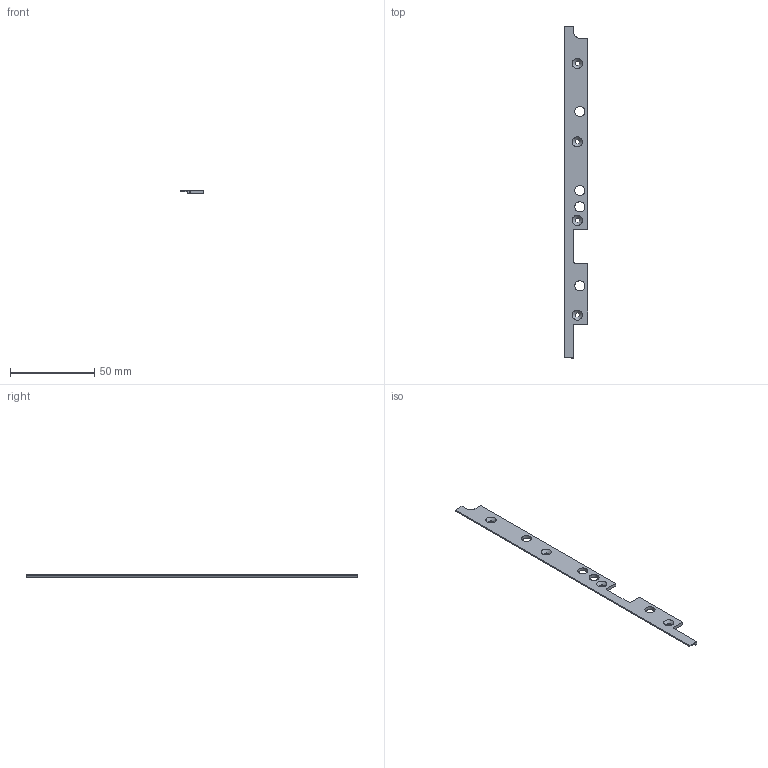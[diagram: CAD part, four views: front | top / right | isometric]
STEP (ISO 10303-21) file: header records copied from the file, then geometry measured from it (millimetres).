
FILE_DESCRIPTION(/* description */ (''),/* implementation_level */ '2;1');
FILE_NAME(/* name */ 'LAMINA#2.stp',/* time_stamp */ '2023-05-18T12:47:44+02:00',/* author */ (''),/* organization */ (''),/* preprocessor_version */ 'ST-DEVELOPER v18.102',/* originating_system */ 'SIEMENS PLM Software NX 2000',/* authorisation */ '');
FILE_SCHEMA (('AP203_CONFIGURATION_CONTROLLED_3D_DESIGN_OF_MECHANICAL_PARTS_AND_ASSEMBLIES_MIM_LF { 1 0 10303 403 2 1 2}'));
Length unit declared in the file: millimetre
Products named in the file (1): turc23EC399Budev
Bounding box: 14 x 196.5 x 2 mm (x, y, z)
Volume: 3314.7 mm3; surface area: 5430.6 mm2
Topology: 1 solids, 1 shells, 33 faces, 101 edges, 70 vertices
Faces by surface type: plane 16, cylinder 13, cone 4
Full cylindrical faces by diameter (mm): 2.7 x4, 6 x4
Entity records: 1279 total; most frequent: DIRECTION 211, CARTESIAN_POINT 205, ORIENTED_EDGE 202, EDGE_CURVE 101, AXIS2_PLACEMENT_3D 76, VERTEX_POINT 70, LINE 59, VECTOR 59
